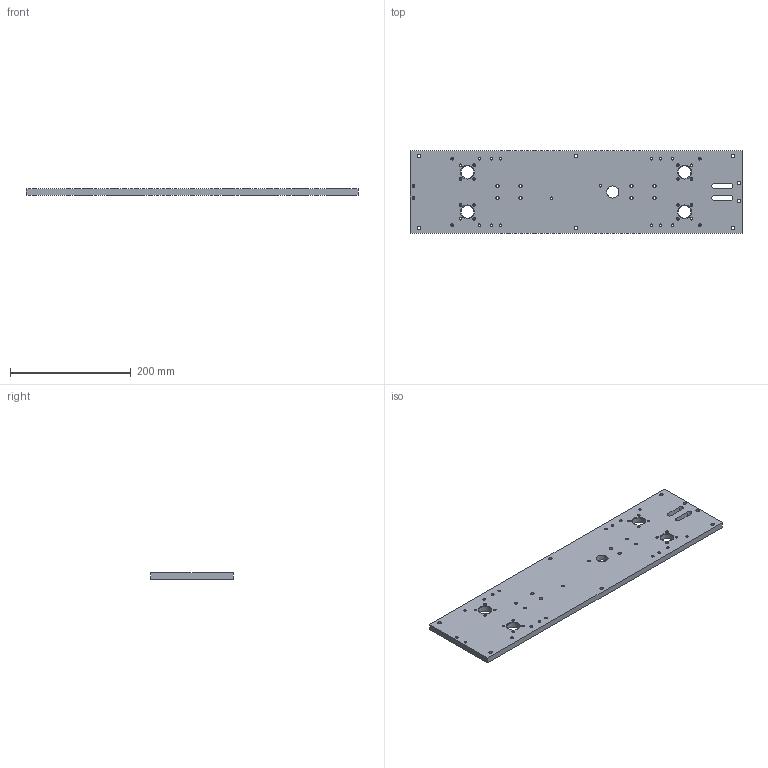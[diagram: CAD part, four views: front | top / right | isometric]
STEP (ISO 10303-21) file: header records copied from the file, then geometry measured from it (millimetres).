
FILE_DESCRIPTION(('STEP AP203'), '1');
FILE_NAME('ﾒﾏﾏﾔ1801.01.08.01.001 - ﾎ魵瑙韃', '', ('UNSPECIFIED'), ('UNSPECIFIED'), 'C3D Converter', 'C3D Toolkit', '');
FILE_SCHEMA(('CONFIG_CONTROL_DESIGN'));
Length unit declared in the file: millimetre
Products named in the file (1): ТППФ1801.01.08.01.001
Bounding box: 550 x 136 x 10 mm (x, y, z)
Volume: 713693.9 mm3; surface area: 168761.3 mm2
Topology: 1 solids, 1 shells, 151 faces, 385 edges, 238 vertices
Faces by surface type: cylinder 71, cone 56, plane 24
Full cylindrical faces by diameter (mm): 3.242 x34, 4.5 x2, 5.5 x16, 20 x1, 21 x4
Entity records: 5508 total; most frequent: DIRECTION 774, CARTESIAN_POINT 662, ORIENTED_EDGE 544, EDGE_LOOP 384, AXIS2_PLACEMENT_3D 350, EDGE_CURVE 272, VERTEX_POINT 238, FACE_OUTER_BOUND 226
